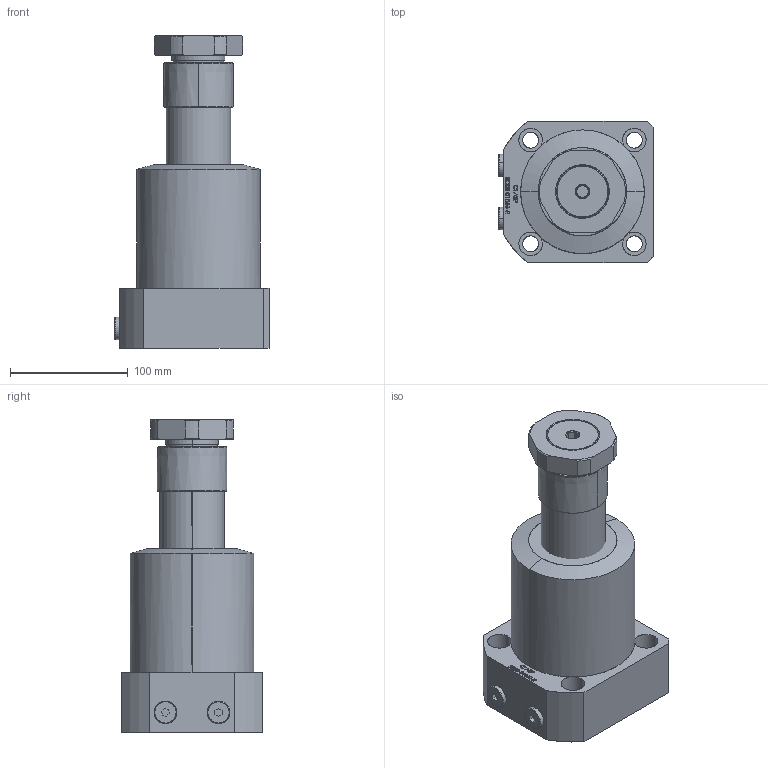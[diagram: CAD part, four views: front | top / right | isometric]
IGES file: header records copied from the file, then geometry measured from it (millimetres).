
Start section: SolidWorks IGES file using analytic representation for surfaces
Global section: file name: D:\karuppas\Clasp\3D model\SWING CYLINDER\bottom mounting swing cylinder\SC08-01051-R\SC08-01051-R.IGS; native system: SolidWorks 2017; preprocessor: SolidWorks 2017; author: pc; date: 220708.225412; units: millimetre
Bounding box: 131 x 120 x 265.6 mm (x, y, z)
Surface area: 151418.9 mm2 (no closed solid volume)
Topology: 0 solids, 0 shells, 384 faces, 6235 edges, 6234 vertices
Faces by surface type: bspline 279, revolution 105
